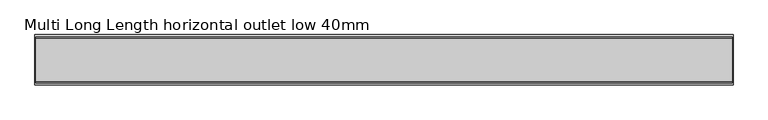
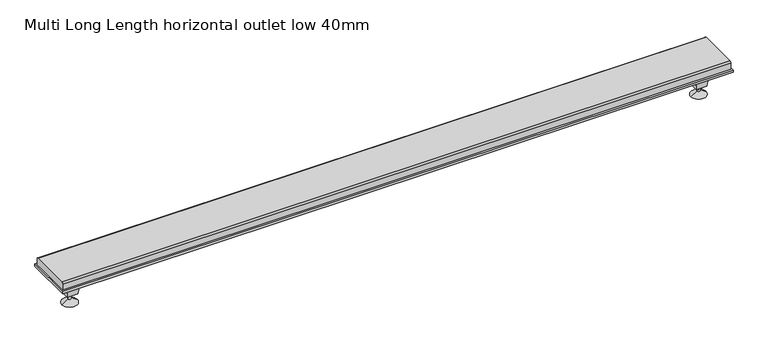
"""IFC4 building model written with IfcOpenShell, lengths in millimetres: sanitary terminal geometry, NLRS_PF_52_UN_Multi Long Length uitloop_Easydrain : Multi Long Length horizontal outlet low 40mm."""

import ifcopenshell
import ifcopenshell.guid

model = None  # the IFC model being written
_history = None  # IfcOwnerHistory: only IFC2X3 demands one
_inside = {}  # id of a spatial element -> (the spatial element, [elements in it])
_under = {}  # id of a project, library or spatial element -> (it, [spatial elements below it])
_declared = {}  # id of a project -> (the project, [libraries it declares])
_typed = {}  # id of a type object -> (the type object, [elements of that type])
_made_of = {}  # id of a material, layer set ... -> (it, [elements and type objects made of it])


def new_model(schema):
    """Start an empty IFC model of exactly this schema.

    Asked for "IFC4X3", IfcOpenShell would pick the latest addendum, in which some entities
    have other attributes; the version numbers below select the first issue.
    IFC2X3 requires an IfcOwnerHistory on every rooted entity: one is made here for all.
    """
    global model, _history
    if schema == "IFC4X3":
        model = ifcopenshell.file(schema_version=(4, 3, 0, 0))
    else:
        model = ifcopenshell.file(schema=schema)
    _inside.clear()
    _under.clear()
    _declared.clear()
    _typed.clear()
    _made_of.clear()
    _history = None
    if model.schema == "IFC2X3":
        org = make("IfcOrganization", Name="unknown")
        user = make(
            "IfcPersonAndOrganization",
            ThePerson=make("IfcPerson", FamilyName="unknown"),
            TheOrganization=org,
        )
        app = make(
            "IfcApplication",
            ApplicationDeveloper=org,
            Version="unknown",
            ApplicationFullName="unknown",
            ApplicationIdentifier="unknown",
        )
        _history = make(
            "IfcOwnerHistory",
            OwningUser=user,
            OwningApplication=app,
            ChangeAction="ADDED",
            CreationDate=0,
        )
    return model


def make(cls, **values):
    """One entity of the class cls with the attributes given. An attribute that is None is left unset."""
    return model.create_entity(
        cls, **{name: value for name, value in values.items() if value is not None}
    )


def rooted(cls, **values):
    """An entity with a GlobalId (a new one), such as an element, a storey or a relation."""
    return make(cls, GlobalId=ifcopenshell.guid.new(), OwnerHistory=_history, **values)


def si_unit(unit_type, name, prefix=None):
    """IfcSIUnit, for example si_unit("LENGTHUNIT", "METRE", prefix="MILLI")."""
    return make("IfcSIUnit", UnitType=unit_type, Prefix=prefix, Name=name)


def assignment(units):
    """IfcUnitAssignment: the units of a project."""
    return None if units is None else make("IfcUnitAssignment", Units=units)


def point(xyz):
    """IfcCartesianPoint."""
    return None if xyz is None else make("IfcCartesianPoint", Coordinates=xyz)


def direction(xyz):
    """IfcDirection."""
    return None if xyz is None else make("IfcDirection", DirectionRatios=xyz)


def frame(location, z_axis=None, x_axis=None):
    """IfcAxis2Placement3D, a coordinate frame: its origin and axes. An axis left out is left unset."""
    return make(
        "IfcAxis2Placement3D",
        Location=point(location),
        Axis=direction(z_axis),
        RefDirection=direction(x_axis),
    )


def frame_2d(location, x_axis=None):
    """IfcAxis2Placement2D, a coordinate frame in the plane: its origin and x axis."""
    return make(
        "IfcAxis2Placement2D", Location=point(location), RefDirection=direction(x_axis)
    )


def origin():
    """The frame at (0, 0, 0) with its axes left unset."""
    return frame((0.0, 0.0, 0.0))


def place(relative_to, where):
    """IfcLocalPlacement: puts the frame where relative to a parent placement (None: the world)."""
    return make(
        "IfcLocalPlacement", PlacementRelTo=relative_to, RelativePlacement=where
    )


def context(
    kind, dimensions, precision=None, world=None, true_north=None, identifier=None
):
    """IfcGeometricRepresentationContext, for example the 3D "Model" context."""
    return make(
        "IfcGeometricRepresentationContext",
        ContextIdentifier=identifier,
        ContextType=kind,
        CoordinateSpaceDimension=dimensions,
        Precision=precision,
        WorldCoordinateSystem=world,
        TrueNorth=true_north,
    )


def project(units=None, contexts=None):
    """IfcProject with its units and contexts."""
    return rooted(
        "IfcProject",
        Name="project",
        RepresentationContexts=contexts,
        UnitsInContext=assignment(units),
    )


def spatial(cls, under=None, at=None, **own):
    """A site, building, storey or space (cls), placed at a placement, below another one or the project."""
    s = rooted(cls, ObjectPlacement=at, **own)
    if under is not None:
        _under.setdefault(under.id(), (under, []))[1].append(s)
    return s


def polyline(points):
    """IfcPolyline through the points."""
    return make("IfcPolyline", Points=[point(p) for p in points])


def circle_curve(where, radius):
    """IfcCircle in the frame where."""
    return make("IfcCircle", Position=where, Radius=radius)


def trimmed(basis, trim1, trim2, sense, master):
    """IfcTrimmedCurve: the piece of a basis curve between two trims."""
    return make(
        "IfcTrimmedCurve",
        BasisCurve=basis,
        Trim1=trim1,
        Trim2=trim2,
        SenseAgreement=sense,
        MasterRepresentation=master,
    )


def segment(curve, same_sense, transition):
    """IfcCompositeCurveSegment."""
    return make(
        "IfcCompositeCurveSegment",
        Transition=transition,
        SameSense=same_sense,
        ParentCurve=curve,
    )


def composite_curve(segments, self_intersect=None):
    """IfcCompositeCurve: segments joined end to end."""
    return make("IfcCompositeCurve", Segments=segments, SelfIntersect=self_intersect)


def outline(outer, holes=None, kind="AREA"):
    """IfcArbitraryClosedProfileDef: a profile drawn as a closed curve; with holes, ...WithVoids."""
    if holes is None:
        return make("IfcArbitraryClosedProfileDef", ProfileType=kind, OuterCurve=outer)
    return make(
        "IfcArbitraryProfileDefWithVoids",
        ProfileType=kind,
        OuterCurve=outer,
        InnerCurves=holes,
    )


def extrude(swept, where, along, depth):
    """IfcExtrudedAreaSolid: the profile swept, set in the frame where, extruded along a direction by depth."""
    return make(
        "IfcExtrudedAreaSolid",
        SweptArea=swept,
        Position=where,
        ExtrudedDirection=direction(along),
        Depth=depth,
    )


def faces_of(points, faces, orient=None, outer=None):
    """IfcFace entities. A face is a list of loops; a loop is a list of indices into points, from 0.

    orient and outer hold one flag for each loop. By default every Orientation is true, the
    first loop of a face is its IfcFaceOuterBound and the others are IfcFaceBound.
    """
    made = []
    for i, loops in enumerate(faces):
        bounds = []
        for j, loop in enumerate(loops):
            is_outer = j == 0 if outer is None else outer[i][j]
            bounds.append(
                make(
                    "IfcFaceOuterBound" if is_outer else "IfcFaceBound",
                    Bound=make("IfcPolyLoop", Polygon=[points[k] for k in loop]),
                    Orientation=True if orient is None else orient[i][j],
                )
            )
        made.append(make("IfcFace", Bounds=bounds))
    return made


def faceted_brep(points, faces, orient=None, outer=None, voids=None):
    """IfcFacetedBrep: a solid bounded by flat faces; with voids (closed shells), ...WithVoids."""
    shared = [point(p) for p in points]
    hull = make("IfcClosedShell", CfsFaces=faces_of(shared, faces, orient, outer))
    if voids is None:
        return make("IfcFacetedBrep", Outer=hull)
    return make(
        "IfcFacetedBrepWithVoids",
        Outer=hull,
        Voids=[
            make(cls, CfsFaces=faces_of(shared, fs, o, b)) for cls, fs, o, b in voids
        ],
    )


def shape(context_of_items, identifier, shape_type, items):
    """IfcShapeRepresentation: the items that make up one representation, for example the "Body"."""
    return make(
        "IfcShapeRepresentation",
        ContextOfItems=context_of_items,
        RepresentationIdentifier=identifier,
        RepresentationType=shape_type,
        Items=items,
    )


def source(mapping_origin, context_of_items, identifier, shape_type, items):
    """IfcRepresentationMap: a shape defined once, which mapped items show again and again."""
    return make(
        "IfcRepresentationMap",
        MappingOrigin=mapping_origin,
        MappedRepresentation=shape(context_of_items, identifier, shape_type, items),
    )


def transform(
    local_origin,
    x_axis=None,
    y_axis=None,
    z_axis=None,
    scale=None,
    scale2=None,
    scale3=None,
    uniform=True,
):
    """IfcCartesianTransformationOperator3D, or its non-uniform kind. x_axis, y_axis, z_axis: its Axis1, 2, 3."""
    if uniform:
        return make(
            "IfcCartesianTransformationOperator3D",
            Axis1=direction(x_axis),
            Axis2=direction(y_axis),
            LocalOrigin=point(local_origin),
            Scale=scale,
            Axis3=direction(z_axis),
        )
    return make(
        "IfcCartesianTransformationOperator3DnonUniform",
        Axis1=direction(x_axis),
        Axis2=direction(y_axis),
        LocalOrigin=point(local_origin),
        Scale=scale,
        Axis3=direction(z_axis),
        Scale2=scale2,
        Scale3=scale3,
    )


def mapped(mapping_source, mapping_target):
    """IfcMappedItem: shows the shape of a source again, moved by a transform."""
    return make(
        "IfcMappedItem", MappingSource=mapping_source, MappingTarget=mapping_target
    )


def made_of(thing, what):
    """Note that an element or type object is made of a material, layer set ...; save() writes the relation."""
    if what is not None:
        _made_of.setdefault(what.id(), (what, []))[1].append(thing)
    return thing


def element(
    cls,
    number,
    at=None,
    inside=None,
    cuts=None,
    type_object=None,
    material=None,
    context=None,
    identifier="Body",
    shape_type=None,
    held_by="IfcProductDefinitionShape",
    body=None,
    shapes=None,
    **own,
):
    """One element of the class cls, such as IfcWall. Its Tag is "e" and its number.

    at: its placement. inside: the storey or other place that contains it. cuts: it is an
    opening in that element (IfcRelVoidsElement). A single representation is given by context,
    identifier, shape_type and body (its items); several are given by shapes. held_by: the class
    of the entity that holds the representations. save() writes the other relations.
    """
    e = rooted(cls, Tag="e%d" % number, ObjectPlacement=at, **own)
    if body is not None:
        shapes = [shape(context, identifier, shape_type, body)]
    if shapes is not None:
        e.Representation = make(held_by, Representations=shapes)
    if inside is not None:
        _inside.setdefault(inside.id(), (inside, []))[1].append(e)
    if cuts is not None:
        rooted(
            "IfcRelVoidsElement", RelatingBuildingElement=cuts, RelatedOpeningElement=e
        )
    if type_object is not None:
        _typed.setdefault(type_object.id(), (type_object, []))[1].append(e)
    return made_of(e, material)


def aggregate(whole, parts):
    """IfcRelAggregates: a whole, such as a stair, and the parts it consists of."""
    return rooted("IfcRelAggregates", RelatingObject=whole, RelatedObjects=parts)


def save(model, path):
    """Write the relations noted so far, then the file.

    IfcRelAggregates (storeys below a building ...), IfcRelContainedInSpatialStructure (elements
    in a storey), IfcRelDefinesByType, IfcRelAssociatesMaterial and IfcRelDeclares: one each for
    every whole, place, type object, material and project.
    """
    for whole, parts in _under.values():
        aggregate(whole, parts)
    for where, things in _inside.values():
        rooted(
            "IfcRelContainedInSpatialStructure",
            RelatedElements=things,
            RelatingStructure=where,
        )
    for kind, things in _typed.values():
        rooted("IfcRelDefinesByType", RelatedObjects=things, RelatingType=kind)
    for what, things in _made_of.values():
        rooted("IfcRelAssociatesMaterial", RelatedObjects=things, RelatingMaterial=what)
    for by, libraries in _declared.values():
        rooted("IfcRelDeclares", RelatingContext=by, RelatedDefinitions=libraries)
    model.write(path)


def plane_surface(at):
    """IfcPlane: the flat surface through the origin of the frame at, square to its z axis."""
    return make("IfcPlane", Position=at)


def cylinder_surface(at, radius):
    """IfcCylindricalSurface: all points at the distance radius from the z axis of the frame at."""
    return make("IfcCylindricalSurface", Position=at, Radius=radius)


def revolved_surface(curve, axis_point, axis_direction):
    """IfcSurfaceOfRevolution: the curve turned about the line through axis_point along axis_direction."""
    return make(
        "IfcSurfaceOfRevolution",
        SweptCurve=make("IfcArbitraryOpenProfileDef", ProfileType="CURVE", Curve=curve),
        AxisPosition=make("IfcAxis1Placement", Location=point(axis_point), Axis=direction(axis_direction)),
    )


def advanced_brep(points, edges, surfaces, faces):
    """IfcAdvancedBrep: a solid bounded by faces that lie on surfaces and meet in shared edges.

    An edge is (start, end): straight between two places in points (the first is 0);
    or (start, end, curve); or (start, end, curve, False) where it runs against its curve.
    A face is (place in surfaces, loops), or (place, loops, False) where it looks against
    its surface's normal. A loop lists edges by number (the first is 1), with a minus sign
    where the edge is run from its end to its start. The first loop is the outer one.
    """
    corners = [point(p) for p in points]
    vertices = [make("IfcVertexPoint", VertexGeometry=c) for c in corners]
    made = []
    for start, end, *more in edges:
        made.append(
            make(
                "IfcEdgeCurve",
                EdgeStart=vertices[start],
                EdgeEnd=vertices[end],
                EdgeGeometry=more[0] if more else make("IfcPolyline", Points=[corners[start], corners[end]]),
                SameSense=more[1] if len(more) > 1 else True,
            )
        )
    hull = []
    for where, loops, *sense in faces:
        bounds = []
        for j, loop in enumerate(loops):
            ring = [make("IfcOrientedEdge", EdgeElement=made[abs(k) - 1], Orientation=k > 0) for k in loop]
            bounds.append(
                make(
                    "IfcFaceOuterBound" if j == 0 else "IfcFaceBound",
                    Bound=make("IfcEdgeLoop", EdgeList=ring),
                    Orientation=True,
                )
            )
        hull.append(make("IfcAdvancedFace", Bounds=bounds, FaceSurface=surfaces[where], SameSense=sense[0] if sense else True))
    return make("IfcAdvancedBrep", Outer=make("IfcClosedShell", CfsFaces=hull))


def multi_long_length_horizontal_outlet_low_40mm_4c622230(model_context):
    return source(origin(), model_context, "Body", "SolidModel", [
        advanced_brep(
        [(1013.0, 0.0, -60.0), (1007.0, 0.0, -60.0), (1010.0, 0.0, -60.0), (1013.0, 0.0, -71.5), (1007.0, 0.0, -71.5), (1025.0, 0.0, -79.0), (995.0, 0.0, -79.0), (1010.0, 0.0, -79.0)],
        [
            (0, 1, circle_curve(frame((1010.0, 0.0, -60.0), z_axis=(0.0, 0.0, 1.0), x_axis=(-1.0, 0.0, 0.0)), 3.0)),
            (1, 2),
            (2, 0),
            (1, 0, circle_curve(frame((1010.0, 0.0, -60.0), z_axis=(0.0, 0.0, 1.0), x_axis=(-1.0, 0.0, 0.0)), 3.0)),
            (3, 4, circle_curve(frame((1010.0, 0.0, -71.5), z_axis=(0.0, 0.0, 1.0), x_axis=(-1.0, 0.0, 0.0)), 3.0)),
            (4, 1),
            (0, 3),
            (4, 3, circle_curve(frame((1010.0, 0.0, -71.5), z_axis=(0.0, 0.0, 1.0), x_axis=(-1.0, 0.0, 0.0)), 3.0)),
            (5, 6, circle_curve(frame((1010.0, 0.0, -79.0), z_axis=(0.0, 0.0, 1.0), x_axis=(-1.0, 0.0, 0.0)), 15.0)),
            (6, 4),
            (3, 5),
            (6, 5, circle_curve(frame((1010.0, 0.0, -79.0), z_axis=(0.0, 0.0, 1.0), x_axis=(-1.0, 0.0, 0.0)), 15.0)),
            (7, 6),
            (5, 7),
        ],
        [
            plane_surface(frame((1010.0, 0.0, -60.0), z_axis=(0.0, 0.0, 1.0), x_axis=(-1.0, 0.0, 0.0))),
            cylinder_surface(frame((1010.0, 0.0, -87.1782032), z_axis=(0.0, 0.0, -1.0), x_axis=(-1.0, 0.0, 0.0)), 3.0),
            revolved_surface(polyline([(1007.0, 0.0, -71.5), (995.0, 0.0, -79.0)]), (1010.0, 0.0, -87.1782032), (0.0, 0.0, -1.0)),
            plane_surface(frame((1010.0, 0.0, -79.0), z_axis=(0.0, 0.0, -1.0), x_axis=(-1.0, 0.0, 0.0))),
        ],
        [
            (0, [[1, 2, 3]]),
            (0, [[4, -3, -2]]),
            (1, [[5, 6, -1, 7]]),
            (1, [[8, -7, -4, -6]]),
            (2, [[9, 10, -5, 11]]),
            (2, [[12, -11, -8, -10]]),
            (3, [[13, -9, 14]]),
            (3, [[-14, -12, -13]]),
        ],
    ),
        faceted_brep([(1000.0, 10.0, -60.0), (1020.0, 10.0, -60.0), (1020.0, -10.0, -60.0), (1000.0, -10.0, -60.0), (995.0, 15.0, -20.0), (995.0, -15.0, -20.0), (1025.0, -15.0, -20.0), (1025.0, 15.0, -20.0)], [[[0, 1, 2, 3]], [[4, 5, 6, 7]], [[5, 4, 0, 3]], [[6, 5, 3, 2]], [[7, 6, 2, 1]], [[4, 7, 1, 0]]]),
        advanced_brep(
        [(-207.0, 0.0, -60.0), (-213.0, 0.0, -60.0), (-210.0, 0.0, -60.0), (-207.0, 0.0, -71.5), (-213.0, 0.0, -71.5), (-195.0, 0.0, -79.0), (-225.0, 0.0, -79.0), (-210.0, 0.0, -79.0)],
        [
            (0, 1, circle_curve(frame((-210.0, 0.0, -60.0), z_axis=(0.0, 0.0, 1.0), x_axis=(-1.0, 0.0, 0.0)), 3.0)),
            (1, 2),
            (2, 0),
            (1, 0, circle_curve(frame((-210.0, 0.0, -60.0), z_axis=(0.0, 0.0, 1.0), x_axis=(-1.0, 0.0, 0.0)), 3.0)),
            (3, 4, circle_curve(frame((-210.0, 0.0, -71.5), z_axis=(0.0, 0.0, 1.0), x_axis=(-1.0, 0.0, 0.0)), 3.0)),
            (4, 1),
            (0, 3),
            (4, 3, circle_curve(frame((-210.0, 0.0, -71.5), z_axis=(0.0, 0.0, 1.0), x_axis=(-1.0, 0.0, 0.0)), 3.0)),
            (5, 6, circle_curve(frame((-210.0, 0.0, -79.0), z_axis=(0.0, 0.0, 1.0), x_axis=(-1.0, 0.0, 0.0)), 15.0)),
            (6, 4),
            (3, 5),
            (6, 5, circle_curve(frame((-210.0, 0.0, -79.0), z_axis=(0.0, 0.0, 1.0), x_axis=(-1.0, 0.0, 0.0)), 15.0)),
            (7, 6),
            (5, 7),
        ],
        [
            plane_surface(frame((-210.0, 0.0, -60.0), z_axis=(0.0, 0.0, 1.0), x_axis=(-1.0, 0.0, 0.0))),
            cylinder_surface(frame((-210.0, 0.0, -87.1782032), z_axis=(0.0, 0.0, -1.0), x_axis=(-1.0, 0.0, 0.0)), 3.0),
            revolved_surface(polyline([(-213.0, 0.0, -71.5), (-225.0, 0.0, -79.0)]), (-210.0, 0.0, -87.1782032), (0.0, 0.0, -1.0)),
            plane_surface(frame((-210.0, 0.0, -79.0), z_axis=(0.0, 0.0, -1.0), x_axis=(-1.0, 0.0, 0.0))),
        ],
        [
            (0, [[1, 2, 3]]),
            (0, [[4, -3, -2]]),
            (1, [[5, 6, -1, 7]]),
            (1, [[8, -7, -4, -6]]),
            (2, [[9, 10, -5, 11]]),
            (2, [[12, -11, -8, -10]]),
            (3, [[13, -9, 14]]),
            (3, [[-14, -12, -13]]),
        ],
    ),
        faceted_brep([(-220.0, 10.0, -60.0), (-200.0, 10.0, -60.0), (-200.0, -10.0, -60.0), (-220.0, -10.0, -60.0), (-225.0, 15.0, -20.0), (-225.0, -15.0, -20.0), (-195.0, -15.0, -20.0), (-195.0, 15.0, -20.0)], [[[0, 1, 2, 3]], [[4, 5, 6, 7]], [[5, 4, 0, 3]], [[6, 5, 3, 2]], [[7, 6, 2, 1]], [[4, 7, 1, 0]]]),
        extrude(outline(composite_curve([segment(polyline([(-40.0, 0.0), (40.0, 0.0)]), True, "CONTINUOUS"), segment(trimmed(circle_curve(frame_2d((40.0, -3.0)), 3.0), [point((40.0, 0.0))], [point((43.0, -3.0))], False, "CARTESIAN"), True, "CONTINUOUS"), segment(polyline([(43.0, -3.0), (43.0, -15.0), (-43.0, -15.0), (-43.0, -3.0)]), True, "CONTINUOUS"), segment(trimmed(circle_curve(frame_2d((-40.0, -3.0)), 3.0), [point((-43.0, -3.0))], [point((-40.0, 0.0))], False, "CARTESIAN"), True, "CONTINUOUS")], self_intersect=False)), frame((-248.0, 0.0, 0.0), z_axis=(1.0, 0.0, 0.0), x_axis=(0.0, 1.0, 0.0)), (0.0, 0.0, 1.0), 1296.0),
        extrude(outline(polyline([(1050.0, -47.0), (-250.0, -47.0), (-250.0, 47.0), (1050.0, 47.0), (1050.0, -47.0)])), frame((0.0, 0.0, -20.0), z_axis=(0.0, 0.0, 1.0), x_axis=(1.0, 0.0, 0.0)), (0.0, 0.0, 1.0), 5.0),
    ])


if __name__ == "__main__":
    model = new_model("IFC4")
    model_context = context("Model", 3, world=origin())
    ifc_project = project(units=[si_unit("LENGTHUNIT", "METRE", prefix="MILLI")], contexts=[model_context])
    site = spatial("IfcSite", under=ifc_project)
    building = spatial("IfcBuilding", under=site)
    placement = place(None, origin())
    multi_long_length_horizontal_outlet_low_40mm_shape = multi_long_length_horizontal_outlet_low_40mm_4c622230(model_context)
    element("IfcSanitaryTerminal", 1, ObjectType="NLRS_PF_52_UN_Multi Long Length uitloop_Easydrain : Multi Long Length horizontal outlet low 40mm", at=placement, inside=building, context=model_context, shape_type="MappedRepresentation", body=[
        mapped(multi_long_length_horizontal_outlet_low_40mm_shape, transform((0.0, 0.0, 0.0), x_axis=(1.0, 0.0, 0.0), y_axis=(0.0, 1.0, 0.0), z_axis=(0.0, 0.0, 1.0))),
    ])
    save(model, "model.ifc")
